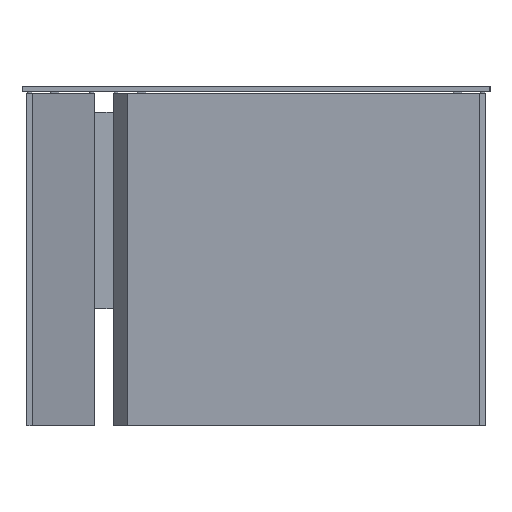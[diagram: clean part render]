
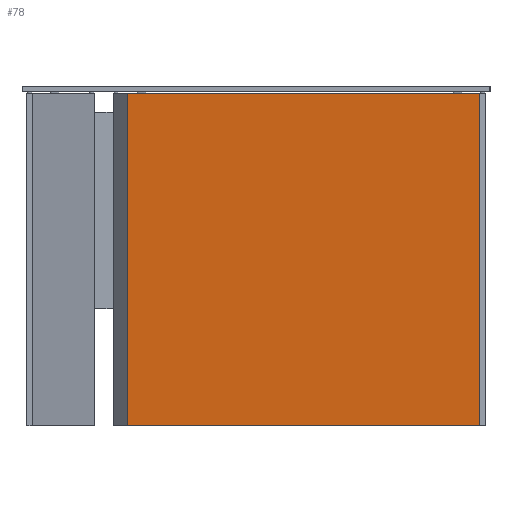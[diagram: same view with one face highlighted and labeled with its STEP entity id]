
A CAD part, left-side view. The second image highlights one B-rep face of the part: STEP entity #78.
In plain terms, the highlighted free-form (B-spline) face has degree [2, 1] with [7, 2] control points.
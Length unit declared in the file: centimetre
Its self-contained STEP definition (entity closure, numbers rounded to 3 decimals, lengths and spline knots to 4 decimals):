
#78=ADVANCED_FACE($,(#170),#1000,.T.);
#170=FACE_OUTER_BOUND($,#262,.T.);
#262=EDGE_LOOP($,(#401,#402,#403,#404));
#401=ORIENTED_EDGE($,*,*,#695,.T.);
#402=ORIENTED_EDGE($,*,*,#691,.T.);
#403=ORIENTED_EDGE($,*,*,#685,.F.);
#404=ORIENTED_EDGE($,*,*,#684,.T.);
#684=EDGE_CURVE($,#845,#850,#1188,.T.);
#685=EDGE_CURVE($,#845,#846,#1052,.T.);
#691=EDGE_CURVE($,#851,#846,#1192,.T.);
#695=EDGE_CURVE($,#850,#851,#1057,.T.);
#845=VERTEX_POINT($,#2200);
#846=VERTEX_POINT($,#2201);
#850=VERTEX_POINT($,#2205);
#851=VERTEX_POINT($,#2206);
#1000=(
BOUNDED_SURFACE()
B_SPLINE_SURFACE(2,1,((#2152,#2153),(#2154,#2155),(#2156,#2157),(#2158,#2159),
(#2160,#2161),(#2162,#2163),(#2164,#2165)),.UNSPECIFIED.,.F.,.F.,.F.)
B_SPLINE_SURFACE_WITH_KNOTS((3,2,2,3),(2,2),(-76.5,-3.,-0.1726,
5.8274),(0.,71.),.UNSPECIFIED.)
GEOMETRIC_REPRESENTATION_ITEM()
RATIONAL_B_SPLINE_SURFACE(((1.,1.),(1.,1.),(1.,1.),(0.707,0.707),
(1.,1.),(1.,1.),(1.,1.)))
REPRESENTATION_ITEM($)
SURFACE()
);
#1052=B_SPLINE_CURVE_WITH_KNOTS($,1,(#2095,#2096),.UNSPECIFIED.,.F.,.F.,
(2,2),(0.,71.),.UNSPECIFIED.);
#1057=B_SPLINE_CURVE_WITH_KNOTS($,1,(#2144,#2145),.UNSPECIFIED.,.F.,.F.,
(2,2),(0.,71.),.UNSPECIFIED.);
#1188=(
BOUNDED_CURVE()
B_SPLINE_CURVE(2,(#2088,#2089,#2090,#2091,#2092,#2093,#2094),.UNSPECIFIED.,
.F.,.F.)
B_SPLINE_CURVE_WITH_KNOTS((3,2,2,3),(-76.5,-3.,-0.1726,5.8274),
.UNSPECIFIED.)
CURVE()
GEOMETRIC_REPRESENTATION_ITEM()
RATIONAL_B_SPLINE_CURVE((1.,1.,1.,0.707,1.,1.,1.))
REPRESENTATION_ITEM($)
);
#1192=(
BOUNDED_CURVE()
B_SPLINE_CURVE(2,(#2122,#2123,#2124,#2125,#2126,#2127,#2128),.UNSPECIFIED.,
.F.,.F.)
B_SPLINE_CURVE_WITH_KNOTS((3,2,2,3),(-5.8274,0.1726,
3.,76.5),.UNSPECIFIED.)
CURVE()
GEOMETRIC_REPRESENTATION_ITEM()
RATIONAL_B_SPLINE_CURVE((1.,1.,1.,0.707,1.,1.,1.))
REPRESENTATION_ITEM($)
);
#2088=CARTESIAN_POINT($,(8.8,77.5,0.));
#2089=CARTESIAN_POINT($,(8.8,40.75,0.));
#2090=CARTESIAN_POINT($,(8.8,4.,0.));
#2091=CARTESIAN_POINT($,(8.8,2.2,0.));
#2092=CARTESIAN_POINT($,(7.,2.2,0.));
#2093=CARTESIAN_POINT($,(4.,2.2,0.));
#2094=CARTESIAN_POINT($,(1.,2.2,0.));
#2095=CARTESIAN_POINT($,(8.8,77.5,0.));
#2096=CARTESIAN_POINT($,(8.8,77.5,71.));
#2122=CARTESIAN_POINT($,(1.,2.2,71.));
#2123=CARTESIAN_POINT($,(4.,2.2,71.));
#2124=CARTESIAN_POINT($,(7.,2.2,71.));
#2125=CARTESIAN_POINT($,(8.8,2.2,71.));
#2126=CARTESIAN_POINT($,(8.8,4.,71.));
#2127=CARTESIAN_POINT($,(8.8,40.75,71.));
#2128=CARTESIAN_POINT($,(8.8,77.5,71.));
#2144=CARTESIAN_POINT($,(1.,2.2,0.));
#2145=CARTESIAN_POINT($,(1.,2.2,71.));
#2152=CARTESIAN_POINT($,(8.8,77.5,0.));
#2153=CARTESIAN_POINT($,(8.8,77.5,71.));
#2154=CARTESIAN_POINT($,(8.8,40.75,0.));
#2155=CARTESIAN_POINT($,(8.8,40.75,71.));
#2156=CARTESIAN_POINT($,(8.8,4.,0.));
#2157=CARTESIAN_POINT($,(8.8,4.,71.));
#2158=CARTESIAN_POINT($,(8.8,2.2,0.));
#2159=CARTESIAN_POINT($,(8.8,2.2,71.));
#2160=CARTESIAN_POINT($,(7.,2.2,0.));
#2161=CARTESIAN_POINT($,(7.,2.2,71.));
#2162=CARTESIAN_POINT($,(4.,2.2,0.));
#2163=CARTESIAN_POINT($,(4.,2.2,71.));
#2164=CARTESIAN_POINT($,(1.,2.2,0.));
#2165=CARTESIAN_POINT($,(1.,2.2,71.));
#2200=CARTESIAN_POINT($,(8.8,77.5,0.));
#2201=CARTESIAN_POINT($,(8.8,77.5,71.));
#2205=CARTESIAN_POINT($,(1.,2.2,0.));
#2206=CARTESIAN_POINT($,(1.,2.2,71.));
